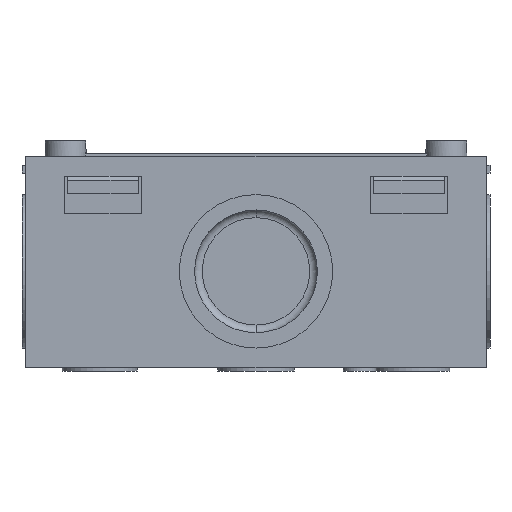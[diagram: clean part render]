
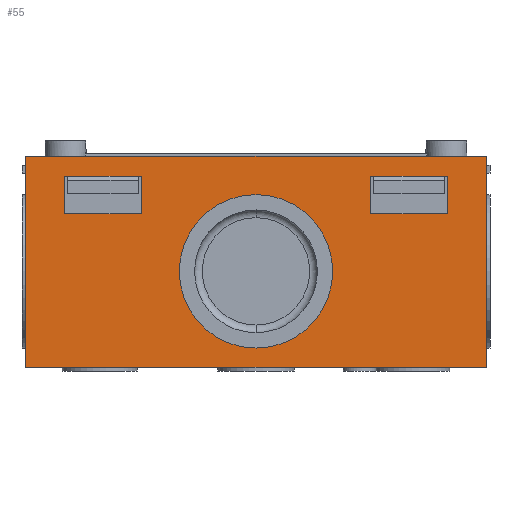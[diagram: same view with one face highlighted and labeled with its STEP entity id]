
A CAD part, front view. The second image highlights one B-rep face of the part: STEP entity #55.
In plain terms, the highlighted planar face has unit normal (0, -1, 0).
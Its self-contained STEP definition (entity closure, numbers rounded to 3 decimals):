
#55 = ADVANCED_FACE ( 'NONE', ( #9962, #9958, #9956, #9954 ), #5192, .F. ) ;
#194 = VECTOR ( 'NONE', #2651, 1000. ) ;
#203 = VECTOR ( 'NONE', #2513, 1000. ) ;
#217 = VECTOR ( 'NONE', #2648, 1000. ) ;
#242 = VECTOR ( 'NONE', #2654, 1000. ) ;
#243 = VECTOR ( 'NONE', #2615, 1000. ) ;
#309 = VECTOR ( 'NONE', #3450, 1000. ) ;
#339 = VECTOR ( 'NONE', #3447, 1000. ) ;
#348 = VECTOR ( 'NONE', #3474, 1000. ) ;
#349 = AXIS2_PLACEMENT_3D ( 'NONE', #3465, #3469, #3470 ) ;
#354 = VECTOR ( 'NONE', #3477, 1000. ) ;
#773 = EDGE_CURVE ( 'NONE', #4432, #4606, #2511, .T. ) ;
#807 = EDGE_CURVE ( 'NONE', #4422, #4432, #2613, .T. ) ;
#818 = EDGE_CURVE ( 'NONE', #7954, #8193, #2646, .T. ) ;
#819 = EDGE_CURVE ( 'NONE', #8116, #4617, #2649, .T. ) ;
#820 = EDGE_CURVE ( 'NONE', #8216, #7954, #2652, .T. ) ;
#821 = EDGE_CURVE ( 'NONE', #4541, #4617, #2655, .T. ) ;
#822 = EDGE_CURVE ( 'NONE', #7994, #8116, #2658, .T. ) ;
#823 = EDGE_CURVE ( 'NONE', #7994, #4541, #2661, .T. ) ;
#1017 = EDGE_CURVE ( 'NONE', #4599, #8034, #10384, .T. ) ;
#1052 = EDGE_CURVE ( 'NONE', #4606, #8152, #3445, .T. ) ;
#1053 = EDGE_CURVE ( 'NONE', #8152, #4422, #3448, .T. ) ;
#1060 = EDGE_CURVE ( 'NONE', #8034, #4599, #10407, .T. ) ;
#1061 = EDGE_CURVE ( 'NONE', #4461, #8193, #3472, .T. ) ;
#1062 = EDGE_CURVE ( 'NONE', #8216, #4461, #3475, .T. ) ;
#2511 = LINE ( 'NONE', #2512, #203 ) ;
#2512 = CARTESIAN_POINT ( 'NONE',  ( -30., -85.5, -13.75 ) ) ;
#2513 = DIRECTION ( 'NONE',  ( 1., 0., 0. ) ) ;
#2613 = LINE ( 'NONE', #2614, #243 ) ;
#2614 = CARTESIAN_POINT ( 'NONE',  ( -30., -85.5, -13.75 ) ) ;
#2615 = DIRECTION ( 'NONE',  ( 0., 0., -1. ) ) ;
#2646 = LINE ( 'NONE', #2647, #217 ) ;
#2647 = CARTESIAN_POINT ( 'NONE',  ( -24.95, -85.5, 6.25 ) ) ;
#2648 = DIRECTION ( 'NONE',  ( 1., 0., 0. ) ) ;
#2649 = LINE ( 'NONE', #2650, #194 ) ;
#2650 = CARTESIAN_POINT ( 'NONE',  ( 14.95, -85.5, 11.15 ) ) ;
#2651 = DIRECTION ( 'NONE',  ( 0., 0., -1. ) ) ;
#2652 = LINE ( 'NONE', #2653, #242 ) ;
#2653 = CARTESIAN_POINT ( 'NONE',  ( -24.95, -85.5, 11.15 ) ) ;
#2654 = DIRECTION ( 'NONE',  ( 0., 0., -1. ) ) ;
#2655 = LINE ( 'NONE', #2656, #4476 ) ;
#2656 = CARTESIAN_POINT ( 'NONE',  ( 24.95, -85.5, 6.25 ) ) ;
#2657 = DIRECTION ( 'NONE',  ( -1., 0., 0. ) ) ;
#2658 = LINE ( 'NONE', #2659, #4367 ) ;
#2659 = CARTESIAN_POINT ( 'NONE',  ( 24.95, -85.5, 11.15 ) ) ;
#2660 = DIRECTION ( 'NONE',  ( -1., 0., 0. ) ) ;
#2661 = LINE ( 'NONE', #2662, #4369 ) ;
#2662 = CARTESIAN_POINT ( 'NONE',  ( 24.95, -85.5, 11.15 ) ) ;
#2663 = DIRECTION ( 'NONE',  ( 0., 0., -1. ) ) ;
#3336 = CARTESIAN_POINT ( 'NONE',  ( 0., -85.5, -1.25 ) ) ;
#3340 = DIRECTION ( 'NONE',  ( 0., -1., 0. ) ) ;
#3341 = DIRECTION ( 'NONE',  ( 0., 0., 1. ) ) ;
#3445 = LINE ( 'NONE', #3446, #339 ) ;
#3446 = CARTESIAN_POINT ( 'NONE',  ( 30., -85.5, -13.75 ) ) ;
#3447 = DIRECTION ( 'NONE',  ( 0., 0., 1. ) ) ;
#3448 = LINE ( 'NONE', #3449, #309 ) ;
#3449 = CARTESIAN_POINT ( 'NONE',  ( -30., -85.5, 13.75 ) ) ;
#3450 = DIRECTION ( 'NONE',  ( -1., 0., 0. ) ) ;
#3465 = CARTESIAN_POINT ( 'NONE',  ( 0., -85.5, -1.25 ) ) ;
#3469 = DIRECTION ( 'NONE',  ( 0., -1., 0. ) ) ;
#3470 = DIRECTION ( 'NONE',  ( 0., 0., 1. ) ) ;
#3472 = LINE ( 'NONE', #3473, #348 ) ;
#3473 = CARTESIAN_POINT ( 'NONE',  ( -14.95, -85.5, 11.15 ) ) ;
#3474 = DIRECTION ( 'NONE',  ( 0., 0., -1. ) ) ;
#3475 = LINE ( 'NONE', #3476, #354 ) ;
#3476 = CARTESIAN_POINT ( 'NONE',  ( -24.95, -85.5, 11.15 ) ) ;
#3477 = DIRECTION ( 'NONE',  ( 1., 0., 0. ) ) ;
#4151 = CARTESIAN_POINT ( 'NONE',  ( -30., -85.5, 13.75 ) ) ;
#4158 = CARTESIAN_POINT ( 'NONE',  ( -30., -85.5, -13.75 ) ) ;
#4181 = CARTESIAN_POINT ( 'NONE',  ( -14.95, -85.5, 11.15 ) ) ;
#4228 = CARTESIAN_POINT ( 'NONE',  ( 24.95, -85.5, 6.25 ) ) ;
#4367 = VECTOR ( 'NONE', #2660, 1000. ) ;
#4369 = VECTOR ( 'NONE', #2663, 1000. ) ;
#4422 = VERTEX_POINT ( 'NONE', #4151 ) ;
#4432 = VERTEX_POINT ( 'NONE', #4158 ) ;
#4461 = VERTEX_POINT ( 'NONE', #4181 ) ;
#4476 = VECTOR ( 'NONE', #2657, 1000. ) ;
#4541 = VERTEX_POINT ( 'NONE', #4228 ) ;
#4599 = VERTEX_POINT ( 'NONE', #5641 ) ;
#4606 = VERTEX_POINT ( 'NONE', #5648 ) ;
#4617 = VERTEX_POINT ( 'NONE', #5659 ) ;
#5192 = PLANE ( 'NONE',  #9959 ) ;
#5193 = CARTESIAN_POINT ( 'NONE',  ( 0., -85.5, 0. ) ) ;
#5194 = DIRECTION ( 'NONE',  ( 0., 1., 0. ) ) ;
#5195 = DIRECTION ( 'NONE',  ( 0., 0., 1. ) ) ;
#5641 = CARTESIAN_POINT ( 'NONE',  ( 0., -85.5, -11.25 ) ) ;
#5648 = CARTESIAN_POINT ( 'NONE',  ( 30., -85.5, -13.75 ) ) ;
#5659 = CARTESIAN_POINT ( 'NONE',  ( 14.95, -85.5, 6.25 ) ) ;
#6238 = CARTESIAN_POINT ( 'NONE',  ( -24.95, -85.5, 6.25 ) ) ;
#6278 = CARTESIAN_POINT ( 'NONE',  ( 24.95, -85.5, 11.15 ) ) ;
#6318 = CARTESIAN_POINT ( 'NONE',  ( 0., -85.5, 8.75 ) ) ;
#6400 = CARTESIAN_POINT ( 'NONE',  ( 14.95, -85.5, 11.15 ) ) ;
#6436 = CARTESIAN_POINT ( 'NONE',  ( 30., -85.5, 13.75 ) ) ;
#6477 = CARTESIAN_POINT ( 'NONE',  ( -14.95, -85.5, 6.25 ) ) ;
#6500 = CARTESIAN_POINT ( 'NONE',  ( -24.95, -85.5, 11.15 ) ) ;
#7954 = VERTEX_POINT ( 'NONE', #6238 ) ;
#7994 = VERTEX_POINT ( 'NONE', #6278 ) ;
#8034 = VERTEX_POINT ( 'NONE', #6318 ) ;
#8116 = VERTEX_POINT ( 'NONE', #6400 ) ;
#8152 = VERTEX_POINT ( 'NONE', #6436 ) ;
#8193 = VERTEX_POINT ( 'NONE', #6477 ) ;
#8216 = VERTEX_POINT ( 'NONE', #6500 ) ;
#8477 = AXIS2_PLACEMENT_3D ( 'NONE', #3336, #3340, #3341 ) ;
#9049 = ORIENTED_EDGE ( 'NONE', *, *, #807, .T. ) ;
#9054 = ORIENTED_EDGE ( 'NONE', *, *, #1017, .F. ) ;
#9055 = ORIENTED_EDGE ( 'NONE', *, *, #1060, .F. ) ;
#9188 = ORIENTED_EDGE ( 'NONE', *, *, #1052, .T. ) ;
#9195 = ORIENTED_EDGE ( 'NONE', *, *, #1061, .T. ) ;
#9196 = ORIENTED_EDGE ( 'NONE', *, *, #820, .F. ) ;
#9197 = ORIENTED_EDGE ( 'NONE', *, *, #1062, .T. ) ;
#9198 = ORIENTED_EDGE ( 'NONE', *, *, #818, .F. ) ;
#9199 = ORIENTED_EDGE ( 'NONE', *, *, #819, .F. ) ;
#9200 = ORIENTED_EDGE ( 'NONE', *, *, #823, .T. ) ;
#9201 = ORIENTED_EDGE ( 'NONE', *, *, #821, .T. ) ;
#9202 = ORIENTED_EDGE ( 'NONE', *, *, #822, .F. ) ;
#9203 = ORIENTED_EDGE ( 'NONE', *, *, #773, .T. ) ;
#9204 = ORIENTED_EDGE ( 'NONE', *, *, #1053, .T. ) ;
#9368 = EDGE_LOOP ( 'NONE', ( #9055, #9054 ) ) ;
#9369 = EDGE_LOOP ( 'NONE', ( #9198, #9196, #9197, #9195 ) ) ;
#9370 = EDGE_LOOP ( 'NONE', ( #9202, #9200, #9201, #9199 ) ) ;
#9371 = EDGE_LOOP ( 'NONE', ( #9188, #9204, #9049, #9203 ) ) ;
#9954 = FACE_BOUND ( 'NONE', #9368, .T. ) ;
#9956 = FACE_BOUND ( 'NONE', #9369, .T. ) ;
#9958 = FACE_BOUND ( 'NONE', #9370, .T. ) ;
#9959 = AXIS2_PLACEMENT_3D ( 'NONE', #5193, #5194, #5195 ) ;
#9962 = FACE_OUTER_BOUND ( 'NONE', #9371, .T. ) ;
#10384 = CIRCLE ( 'NONE', #8477, 10. ) ;
#10407 = CIRCLE ( 'NONE', #349, 10. ) ;
